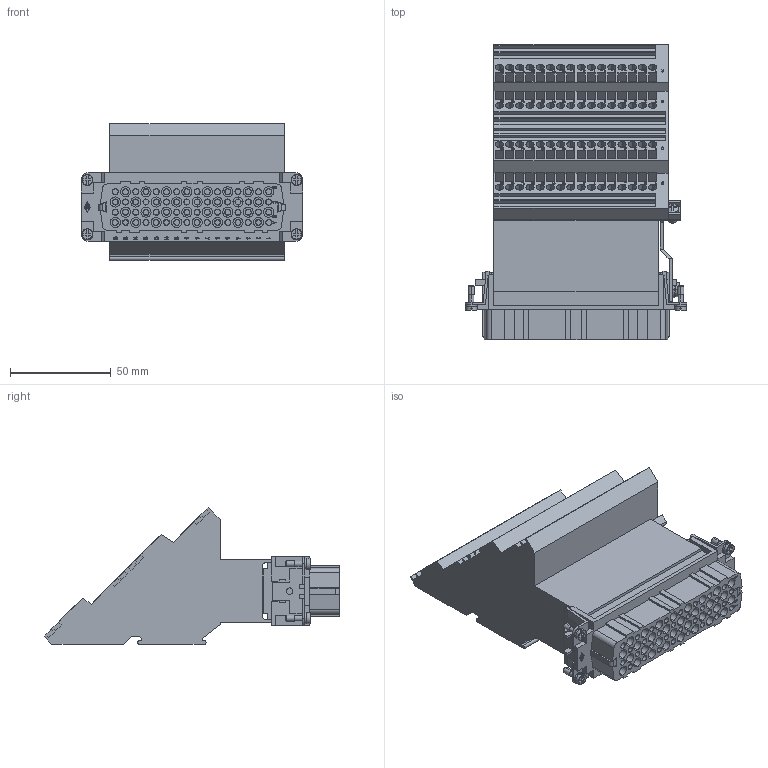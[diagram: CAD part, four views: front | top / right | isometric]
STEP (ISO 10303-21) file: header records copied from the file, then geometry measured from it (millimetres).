
FILE_DESCRIPTION (( 'STEP AP203' ), '1' );
FILE_NAME ('CTSF-64R.STEP', '2016-05-13T15:02:04', ( 'Mencom User' ), ( 'Hewlett-Packard Company' ), 'SwSTEP 2.0', 'SolidWorks 2015', '' );
FILE_SCHEMA (( 'CONFIG_CONTROL_DESIGN' ));
Length unit declared in the file: millimetre
Products named in the file (1): CTSF-64R
Bounding box: 110.2 x 147.01 x 68 mm (x, y, z)
Surface area: 98823.7 mm2 (no closed solid volume)
Topology: 0 solids, 5 shells, 3392 faces, 8564 edges, 5683 vertices
Faces by surface type: plane 1871, bspline 836, cylinder 670, cone 8, torus 6, sphere 1
Entity records: 106565 total; most frequent: CARTESIAN_POINT 29199, ORIENTED_EDGE 17098, DIRECTION 13348, EDGE_CURVE 8564, VERTEX_POINT 5683, VECTOR 5472, LINE 5472, AXIS2_PLACEMENT_3D 3938
